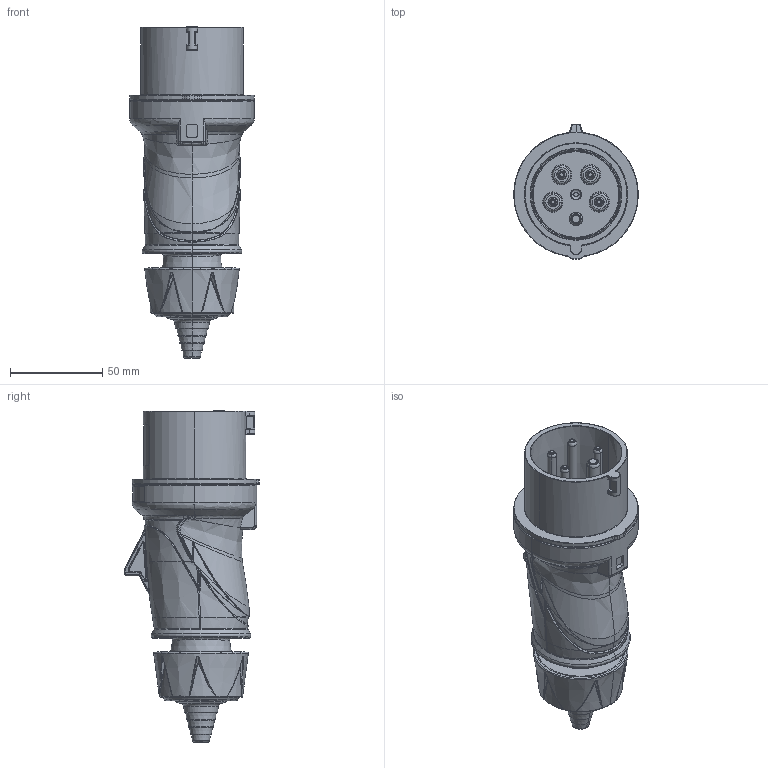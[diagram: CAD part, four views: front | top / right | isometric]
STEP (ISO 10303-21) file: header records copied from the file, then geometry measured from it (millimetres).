
FILE_DESCRIPTION((''),'2;1');
FILE_NAME('1148693_ASM_SW0005','2025-03-21T08:04:40',('kremer'),('MENNEKES'),'CREO PARAMETRIC BY PTC INC, 2023134','CREO PARAMETRIC BY PTC INC, 2023134','');
FILE_SCHEMA(('AUTOMOTIVE_DESIGN { 1 0 10303 214 1 1 1 1 }'));
Products named in the file (1): 1148693_ASM_SW0005
Bounding box: 67.75 x 73.2 x 180.42 mm (x, y, z)
Volume: 295211.8 mm3; surface area: 47847.5 mm2
Topology: 1 solids, 1 shells, 1046 faces, 2411 edges, 1402 vertices
Faces by surface type: bspline 650, torus 106, cylinder 106, plane 99, cone 68, extrusion 11, sphere 6
Entity records: 73520 total; most frequent: CARTESIAN_POINT 39051, ORIENTED_EDGE 4822, PRESENTATION_STYLE_ASSIGNMENT 3469, DIRECTION 2882, STYLED_ITEM 2423, CURVE_STYLE 2422, EDGE_CURVE 2411, VERTEX_POINT 1402
